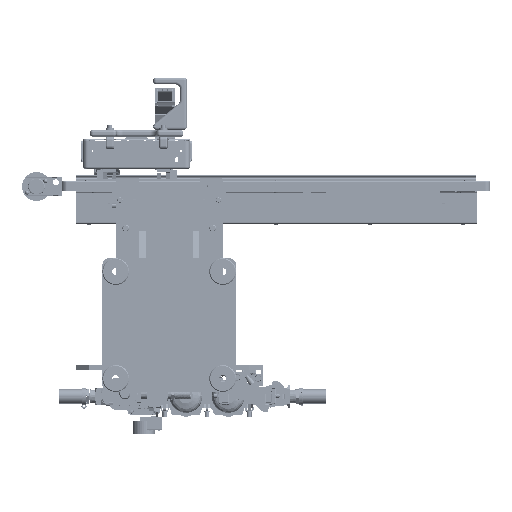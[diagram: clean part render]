
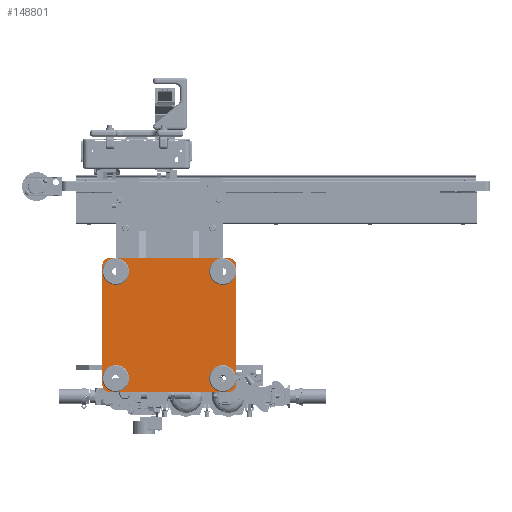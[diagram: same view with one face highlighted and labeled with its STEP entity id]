
A CAD part, front view. The second image highlights one B-rep face of the part: STEP entity #148801.
In plain terms, the highlighted planar face has unit normal (0, -1, 0).
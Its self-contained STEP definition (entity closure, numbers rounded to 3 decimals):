
#96 = DIRECTION ( 'NONE',  ( 0., 1., 0. ) ) ;
#510 = CARTESIAN_POINT ( 'NONE',  ( -4., -43.081, 4. ) ) ;
#1179 = CIRCLE ( 'NONE', #4111, 0.469 ) ;
#4111 = AXIS2_PLACEMENT_3D ( 'NONE', #156035, #142721, #101083 ) ;
#5262 = VERTEX_POINT ( 'NONE', #100185 ) ;
#5906 = CARTESIAN_POINT ( 'NONE',  ( -5., -43.081, 5. ) ) ;
#8827 = CARTESIAN_POINT ( 'NONE',  ( -4.469, -43.081, -4. ) ) ;
#10916 = DIRECTION ( 'NONE',  ( 0., -1., 0. ) ) ;
#11327 = EDGE_CURVE ( 'NONE', #43607, #138184, #72963, .T. ) ;
#13876 = AXIS2_PLACEMENT_3D ( 'NONE', #41277, #151158, #84671 ) ;
#14281 = EDGE_CURVE ( 'NONE', #159597, #5262, #91999, .T. ) ;
#14288 = CARTESIAN_POINT ( 'NONE',  ( 0., -43.081, 0. ) ) ;
#15507 = EDGE_LOOP ( 'NONE', ( #52875 ) ) ;
#15560 = VERTEX_POINT ( 'NONE', #33423 ) ;
#16270 = ORIENTED_EDGE ( 'NONE', *, *, #152469, .F. ) ;
#19975 = CARTESIAN_POINT ( 'NONE',  ( -4.469, -43.081, 4. ) ) ;
#20170 = VERTEX_POINT ( 'NONE', #148127 ) ;
#21481 = CIRCLE ( 'NONE', #131795, 0.469 ) ;
#22355 = CIRCLE ( 'NONE', #13876, 0.5 ) ;
#22410 = VECTOR ( 'NONE', #117978, 39.37 ) ;
#22908 = ORIENTED_EDGE ( 'NONE', *, *, #81996, .T. ) ;
#23323 = DIRECTION ( 'NONE',  ( -1., 0., 0. ) ) ;
#23662 = EDGE_CURVE ( 'NONE', #141715, #141715, #21481, .T. ) ;
#27094 = VERTEX_POINT ( 'NONE', #94259 ) ;
#27186 = ORIENTED_EDGE ( 'NONE', *, *, #47736, .F. ) ;
#27678 = DIRECTION ( 'NONE',  ( 0., -1., 0. ) ) ;
#28642 = CARTESIAN_POINT ( 'NONE',  ( 3.531, -43.081, -4. ) ) ;
#32337 = CIRCLE ( 'NONE', #156837, 0.5 ) ;
#33423 = CARTESIAN_POINT ( 'NONE',  ( 4.5, -43.081, 5. ) ) ;
#38476 = AXIS2_PLACEMENT_3D ( 'NONE', #14288, #96, #95799 ) ;
#39531 = CARTESIAN_POINT ( 'NONE',  ( 5., -43.081, -4.5 ) ) ;
#41277 = CARTESIAN_POINT ( 'NONE',  ( -4.5, -43.081, -4.5 ) ) ;
#41731 = FACE_BOUND ( 'NONE', #15507, .T. ) ;
#43472 = FACE_BOUND ( 'NONE', #91118, .T. ) ;
#43607 = VERTEX_POINT ( 'NONE', #171252 ) ;
#43632 = EDGE_CURVE ( 'NONE', #20170, #5262, #44824, .T. ) ;
#43803 = EDGE_LOOP ( 'NONE', ( #151275 ) ) ;
#44123 = CARTESIAN_POINT ( 'NONE',  ( -5., -43.081, -5. ) ) ;
#44824 = CIRCLE ( 'NONE', #143889, 0.5 ) ;
#47736 = EDGE_CURVE ( 'NONE', #55052, #55052, #50324, .T. ) ;
#48860 = ORIENTED_EDGE ( 'NONE', *, *, #55769, .F. ) ;
#50324 = CIRCLE ( 'NONE', #157890, 0.469 ) ;
#52875 = ORIENTED_EDGE ( 'NONE', *, *, #144491, .F. ) ;
#54379 = EDGE_CURVE ( 'NONE', #128524, #128524, #150760, .T. ) ;
#55052 = VERTEX_POINT ( 'NONE', #120647 ) ;
#55769 = EDGE_CURVE ( 'NONE', #20170, #15560, #98079, .T. ) ;
#62962 = AXIS2_PLACEMENT_3D ( 'NONE', #161559, #10916, #172209 ) ;
#63032 = CARTESIAN_POINT ( 'NONE',  ( 5., -43.081, -5. ) ) ;
#64073 = CARTESIAN_POINT ( 'NONE',  ( 4., -43.081, 4. ) ) ;
#64624 = VECTOR ( 'NONE', #109756, 39.37 ) ;
#65413 = CARTESIAN_POINT ( 'NONE',  ( 4.5, -43.081, 4.5 ) ) ;
#71612 = LINE ( 'NONE', #44123, #64624 ) ;
#72963 = CIRCLE ( 'NONE', #109654, 0.5 ) ;
#73115 = VECTOR ( 'NONE', #76971, 39.37 ) ;
#76833 = ORIENTED_EDGE ( 'NONE', *, *, #137104, .T. ) ;
#76971 = DIRECTION ( 'NONE',  ( 0., 0., 1. ) ) ;
#79585 = CARTESIAN_POINT ( 'NONE',  ( -5., -43.081, -5. ) ) ;
#81266 = EDGE_LOOP ( 'NONE', ( #112714, #155511, #16270, #22908, #48860, #144728, #96961, #76833 ) ) ;
#81996 = EDGE_CURVE ( 'NONE', #157435, #15560, #32337, .T. ) ;
#83063 = VECTOR ( 'NONE', #96337, 39.37 ) ;
#84671 = DIRECTION ( 'NONE',  ( 1., 0., 0. ) ) ;
#86243 = DIRECTION ( 'NONE',  ( 1., 0., 0. ) ) ;
#91118 = EDGE_LOOP ( 'NONE', ( #27186 ) ) ;
#91999 = LINE ( 'NONE', #79585, #73115 ) ;
#94259 = CARTESIAN_POINT ( 'NONE',  ( -4.5, -43.081, -5. ) ) ;
#95799 = DIRECTION ( 'NONE',  ( 1., 0., 0. ) ) ;
#96337 = DIRECTION ( 'NONE',  ( 1., 0., 0. ) ) ;
#96961 = ORIENTED_EDGE ( 'NONE', *, *, #14281, .F. ) ;
#97546 = FACE_OUTER_BOUND ( 'NONE', #81266, .T. ) ;
#97654 = DIRECTION ( 'NONE',  ( 1., 0., 0. ) ) ;
#98079 = LINE ( 'NONE', #5906, #83063 ) ;
#100185 = CARTESIAN_POINT ( 'NONE',  ( -5., -43.081, 4.5 ) ) ;
#101083 = DIRECTION ( 'NONE',  ( -1., 0., 0. ) ) ;
#102951 = LINE ( 'NONE', #63032, #22410 ) ;
#108672 = DIRECTION ( 'NONE',  ( -1., 0., 0. ) ) ;
#109654 = AXIS2_PLACEMENT_3D ( 'NONE', #110981, #27678, #97654 ) ;
#109756 = DIRECTION ( 'NONE',  ( -1., 0., 0. ) ) ;
#110006 = FACE_BOUND ( 'NONE', #156150, .T. ) ;
#110981 = CARTESIAN_POINT ( 'NONE',  ( 4.5, -43.081, -4.5 ) ) ;
#112714 = ORIENTED_EDGE ( 'NONE', *, *, #123703, .F. ) ;
#117978 = DIRECTION ( 'NONE',  ( 0., 0., -1. ) ) ;
#118219 = VERTEX_POINT ( 'NONE', #28642 ) ;
#119073 = ORIENTED_EDGE ( 'NONE', *, *, #54379, .F. ) ;
#119323 = DIRECTION ( 'NONE',  ( 0., -1., 0. ) ) ;
#120647 = CARTESIAN_POINT ( 'NONE',  ( 3.531, -43.081, 4. ) ) ;
#121530 = PLANE ( 'NONE',  #38476 ) ;
#123703 = EDGE_CURVE ( 'NONE', #43607, #27094, #71612, .T. ) ;
#127000 = CARTESIAN_POINT ( 'NONE',  ( -4.5, -43.081, 4.5 ) ) ;
#128524 = VERTEX_POINT ( 'NONE', #8827 ) ;
#129735 = DIRECTION ( 'NONE',  ( 0., -1., 0. ) ) ;
#131795 = AXIS2_PLACEMENT_3D ( 'NONE', #510, #119323, #108672 ) ;
#137104 = EDGE_CURVE ( 'NONE', #159597, #27094, #22355, .T. ) ;
#138184 = VERTEX_POINT ( 'NONE', #39531 ) ;
#141715 = VERTEX_POINT ( 'NONE', #19975 ) ;
#142721 = DIRECTION ( 'NONE',  ( 0., -1., 0. ) ) ;
#143889 = AXIS2_PLACEMENT_3D ( 'NONE', #127000, #168665, #86243 ) ;
#144491 = EDGE_CURVE ( 'NONE', #118219, #118219, #1179, .T. ) ;
#144728 = ORIENTED_EDGE ( 'NONE', *, *, #43632, .T. ) ;
#148127 = CARTESIAN_POINT ( 'NONE',  ( -4.5, -43.081, 5. ) ) ;
#148801 = ADVANCED_FACE ( 'NONE', ( #43472, #110006, #164046, #97546, #41731 ), #121530, .F. ) ;
#150760 = CIRCLE ( 'NONE', #62962, 0.469 ) ;
#151068 = CARTESIAN_POINT ( 'NONE',  ( -5., -43.081, -4.5 ) ) ;
#151158 = DIRECTION ( 'NONE',  ( 0., -1., 0. ) ) ;
#151275 = ORIENTED_EDGE ( 'NONE', *, *, #23662, .F. ) ;
#152469 = EDGE_CURVE ( 'NONE', #157435, #138184, #102951, .T. ) ;
#155511 = ORIENTED_EDGE ( 'NONE', *, *, #11327, .T. ) ;
#156035 = CARTESIAN_POINT ( 'NONE',  ( 4., -43.081, -4. ) ) ;
#156150 = EDGE_LOOP ( 'NONE', ( #119073 ) ) ;
#156837 = AXIS2_PLACEMENT_3D ( 'NONE', #65413, #161114, #173519 ) ;
#157435 = VERTEX_POINT ( 'NONE', #164976 ) ;
#157890 = AXIS2_PLACEMENT_3D ( 'NONE', #64073, #129735, #23323 ) ;
#159597 = VERTEX_POINT ( 'NONE', #151068 ) ;
#161114 = DIRECTION ( 'NONE',  ( 0., -1., 0. ) ) ;
#161559 = CARTESIAN_POINT ( 'NONE',  ( -4., -43.081, -4. ) ) ;
#164046 = FACE_BOUND ( 'NONE', #43803, .T. ) ;
#164976 = CARTESIAN_POINT ( 'NONE',  ( 5., -43.081, 4.5 ) ) ;
#168665 = DIRECTION ( 'NONE',  ( 0., -1., 0. ) ) ;
#171252 = CARTESIAN_POINT ( 'NONE',  ( 4.5, -43.081, -5. ) ) ;
#172209 = DIRECTION ( 'NONE',  ( -1., 0., 0. ) ) ;
#173519 = DIRECTION ( 'NONE',  ( 1., 0., 0. ) ) ;
